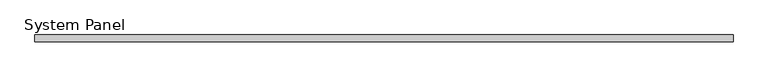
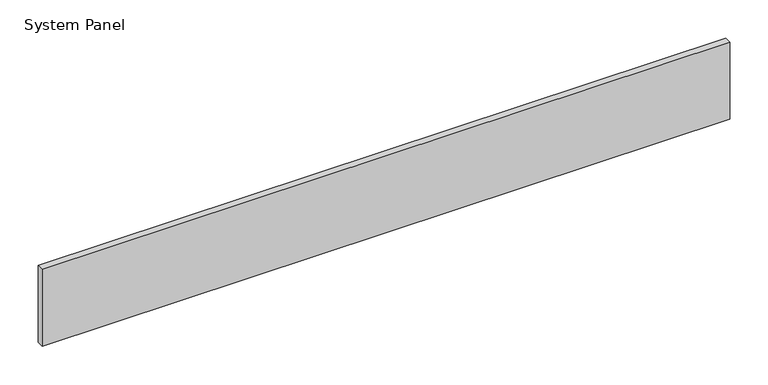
"""IFC4 building model written with IfcOpenShell, lengths in millimetres: plate geometry, System Panel : VACÍO."""

from ifc_helpers import new_model, si_unit, origin, origin_with_axes, place, context, project, spatial, polyline, outline, extrude, source, transform, mapped, element, save


def system_panel_3b88cb66(model_context):
    return source(origin(), model_context, "Body", "SweptSolid", [
        extrude(outline(polyline([(519.0, -5.0), (-519.0, -5.0), (-519.0, 5.0), (519.0, 5.0), (519.0, -5.0)])), origin_with_axes(), (0.0, 0.0, 1.0), 122.8888889),
    ])


if __name__ == "__main__":
    model = new_model("IFC4")
    model_context = context("Model", 3, world=origin())
    ifc_project = project(units=[si_unit("LENGTHUNIT", "METRE", prefix="MILLI")], contexts=[model_context])
    site = spatial("IfcSite", under=ifc_project)
    building = spatial("IfcBuilding", under=site)
    placement = place(None, origin())
    system_panel_shape = system_panel_3b88cb66(model_context)
    element("IfcPlate", 1, ObjectType="System Panel : VACÍO", at=placement, inside=building, context=model_context, shape_type="MappedRepresentation", body=[
        mapped(system_panel_shape, transform((0.0, 0.0, 0.0), x_axis=(1.0, 0.0, 0.0), y_axis=(0.0, 1.0, 0.0), z_axis=(0.0, 0.0, 1.0))),
    ])
    save(model, "model.ifc")
